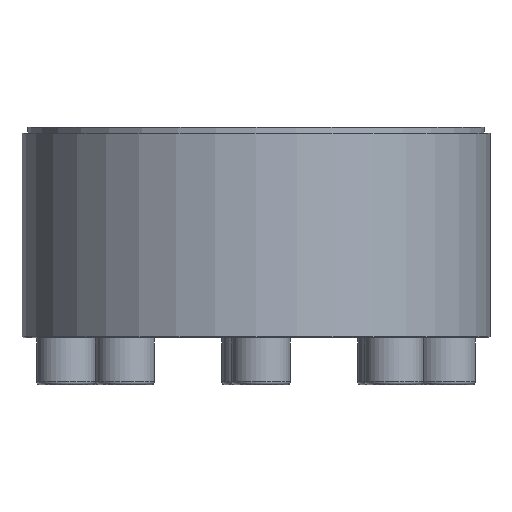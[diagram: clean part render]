
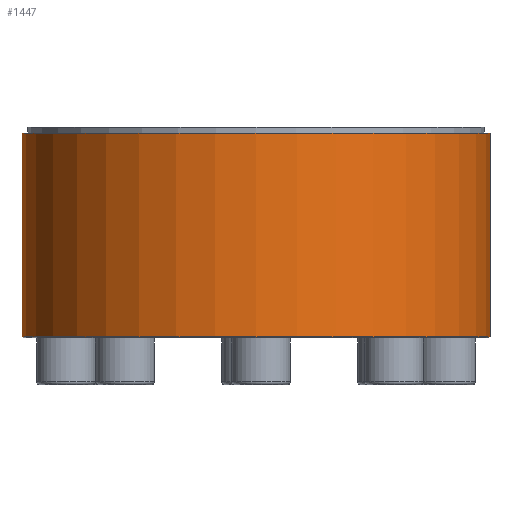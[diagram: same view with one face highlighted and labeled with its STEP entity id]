
A CAD part, front view. The second image highlights one B-rep face of the part: STEP entity #1447.
In plain terms, the highlighted cylindrical face has radius 40 mm (diameter 80 mm), a partial arc.
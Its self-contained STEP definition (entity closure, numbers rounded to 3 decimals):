
#101 = CARTESIAN_POINT ( 'NONE',  ( 40., 0., -17.8 ) ) ;
#102 = DIRECTION ( 'NONE',  ( 0., 0., -1. ) ) ;
#197 = CARTESIAN_POINT ( 'NONE',  ( 0., 0., 17. ) ) ;
#380 = DIRECTION ( 'NONE',  ( -1., 0., 0. ) ) ;
#433 = DIRECTION ( 'NONE',  ( 1., 0., 0. ) ) ;
#561 = ORIENTED_EDGE ( 'NONE', *, *, #2046, .T. ) ;
#655 = CARTESIAN_POINT ( 'NONE',  ( -40., 0., 17. ) ) ;
#707 = DIRECTION ( 'NONE',  ( -1., 0., 0. ) ) ;
#989 = VECTOR ( 'NONE', #1135, 1000. ) ;
#1081 = EDGE_LOOP ( 'NONE', ( #1314, #2070, #561, #2802 ) ) ;
#1135 = DIRECTION ( 'NONE',  ( 0., 0., -1. ) ) ;
#1143 = DIRECTION ( 'NONE',  ( 0., 0., -1. ) ) ;
#1225 = FACE_OUTER_BOUND ( 'NONE', #1081, .T. ) ;
#1314 = ORIENTED_EDGE ( 'NONE', *, *, #1755, .F. ) ;
#1418 = CARTESIAN_POINT ( 'NONE',  ( 40., 0., 0. ) ) ;
#1425 = CARTESIAN_POINT ( 'NONE',  ( 0., 0., -17.8 ) ) ;
#1427 = DIRECTION ( 'NONE',  ( 0., 0., -1. ) ) ;
#1447 = ADVANCED_FACE ( 'NONE', ( #1225 ), #2989, .T. ) ;
#1524 = VERTEX_POINT ( 'NONE', #1853 ) ;
#1755 = EDGE_CURVE ( 'NONE', #2485, #1870, #1849, .T. ) ;
#1849 = LINE ( 'NONE', #1418, #3060 ) ;
#1853 = CARTESIAN_POINT ( 'NONE',  ( -40., 0., -17.8 ) ) ;
#1864 = CARTESIAN_POINT ( 'NONE',  ( -40., 0., 0. ) ) ;
#1870 = VERTEX_POINT ( 'NONE', #101 ) ;
#2046 = EDGE_CURVE ( 'NONE', #3085, #1524, #3100, .T. ) ;
#2070 = ORIENTED_EDGE ( 'NONE', *, *, #2374, .T. ) ;
#2161 = DIRECTION ( 'NONE',  ( 0., 0., 1. ) ) ;
#2374 = EDGE_CURVE ( 'NONE', #2485, #3085, #2783, .T. ) ;
#2421 = AXIS2_PLACEMENT_3D ( 'NONE', #1425, #2161, #707 ) ;
#2428 = CARTESIAN_POINT ( 'NONE',  ( 40., 0., 17. ) ) ;
#2472 = EDGE_CURVE ( 'NONE', #1524, #1870, #2751, .T. ) ;
#2485 = VERTEX_POINT ( 'NONE', #2428 ) ;
#2527 = CARTESIAN_POINT ( 'NONE',  ( 0., 0., 0. ) ) ;
#2660 = AXIS2_PLACEMENT_3D ( 'NONE', #197, #1143, #433 ) ;
#2751 = CIRCLE ( 'NONE', #2421, 40. ) ;
#2783 = CIRCLE ( 'NONE', #2660, 40. ) ;
#2802 = ORIENTED_EDGE ( 'NONE', *, *, #2472, .T. ) ;
#2830 = AXIS2_PLACEMENT_3D ( 'NONE', #2527, #102, #380 ) ;
#2989 = CYLINDRICAL_SURFACE ( 'NONE', #2830, 40. ) ;
#3060 = VECTOR ( 'NONE', #1427, 1000. ) ;
#3085 = VERTEX_POINT ( 'NONE', #655 ) ;
#3100 = LINE ( 'NONE', #1864, #989 ) ;
